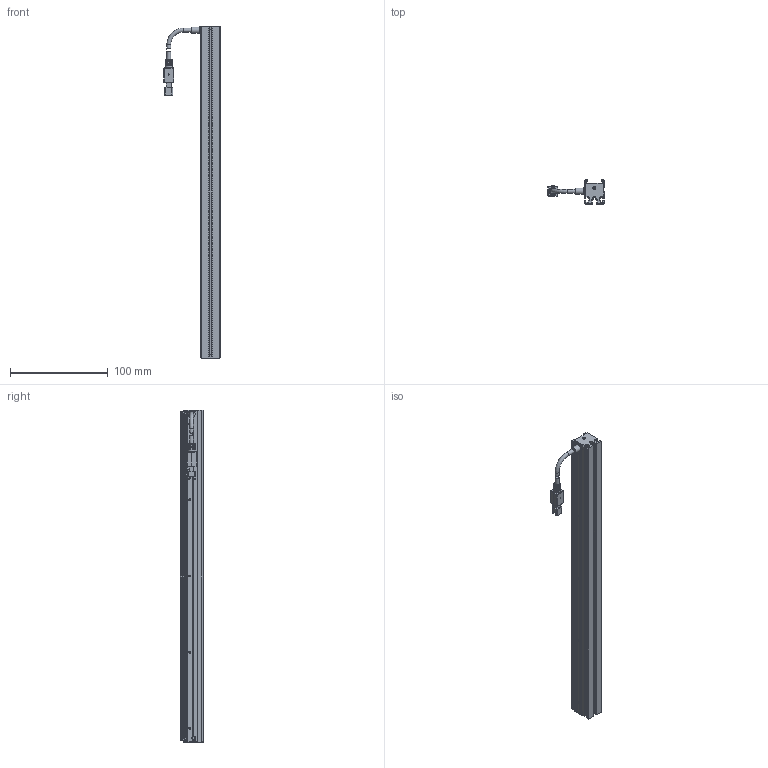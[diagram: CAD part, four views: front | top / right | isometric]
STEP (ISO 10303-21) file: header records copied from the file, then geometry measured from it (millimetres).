
FILE_DESCRIPTION (( 'STEP AP214' ), '1' );
FILE_NAME ('OPT-ULI34020W-UV-V1.0尨砩芞.STEP', '2024-12-11T03:46:24', ( '' ), ( '' ), 'SwSTEP 2.0', 'SolidWorks 2016', '' );
FILE_SCHEMA (( 'AUTOMOTIVE_DESIGN' ));
Length unit declared in the file: millimetre
Products named in the file (1): OPT-ULI34020W-UV-V1.0尨砩芞
Bounding box: 57.6 x 24 x 340 mm (x, y, z)
Volume: 120730.5 mm3; surface area: 57342.7 mm2
Topology: 6 solids, 14 shells, 591 faces, 1536 edges, 990 vertices
Faces by surface type: plane 394, cylinder 140, cone 28, bspline 21, torus 8
Full cylindrical faces by diameter (mm): 1.1 x2, 1.4 x2, 1.6 x7, 2 x17, 2.4 x7, 2.5 x2, 3 x2, 3.5 x1, 4.1 x4, 6.5 x1, 7 x1, 7.5 x1
Entity records: 24225 total; most frequent: CARTESIAN_POINT 4186, ORIENTED_EDGE 2830, DIRECTION 2752, EDGE_CURVE 1415, LINE 960, VECTOR 960, VERTEX_POINT 948, AXIS2_PLACEMENT_3D 896
